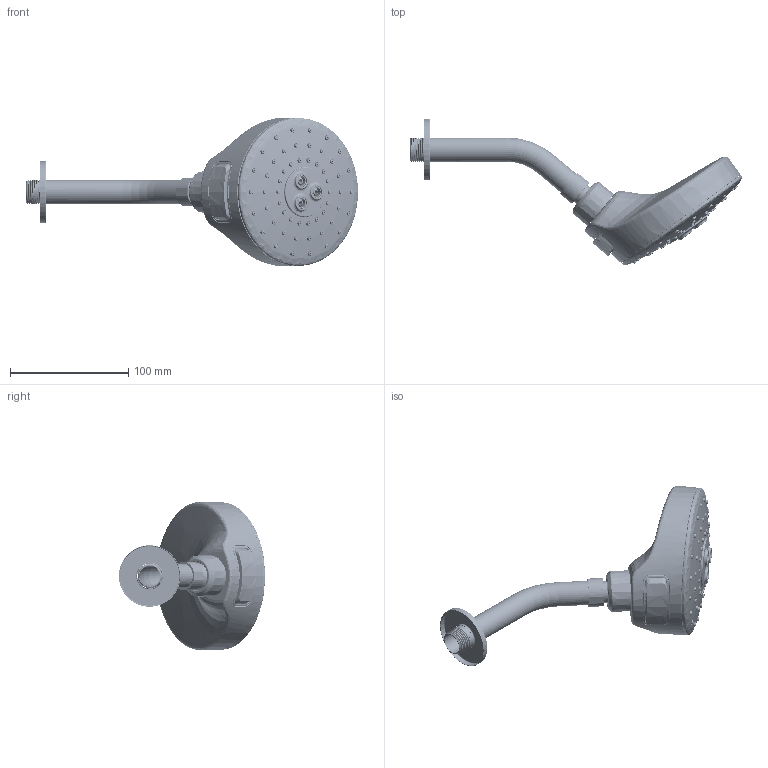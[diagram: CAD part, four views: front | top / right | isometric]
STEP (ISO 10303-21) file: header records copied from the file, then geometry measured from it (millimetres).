
FILE_DESCRIPTION((''),'2;1');
FILE_NAME('BAR0630_ASM','2018-08-01T',('BRUser'),(''),'PRO/ENGINEER BY PARAMETRIC TECHNOLOGY CORPORATION, 2007450','PRO/ENGINEER BY PARAMETRIC TECHNOLOGY CORPORATION, 2007450','');
FILE_SCHEMA(('CONFIG_CONTROL_DESIGN'));
Length unit declared in the file: millimetre
Products named in the file (24): BAR0630-001; BAR0630-002; PSH2330-001; PHS2250-006; PHS2250-005-01; PHS2250-005-02; PHS2250-005_ASM; PSH2330-003; PHS2250-027; PHS2250-008; PHS2250-009; PSH2330-01_ASM; PHS2250-002; PSH2330-002; PRS1802-003; PSH2330-007; PRS2100-013; PRS2100-014; PRS2100-011; ST3-5X16; 7-5X1-5; 8X1-5; PSH2330_ASM; BAR0630_ASM
Assembly tree (31 placements, depth 5):
  BAR0630_ASM
    BAR0630-001
    BAR0630-002
    PSH2330_ASM
      PSH2330-001
      PSH2330-01_ASM
        PHS2250-006
        PHS2250-005_ASM
          PHS2250-005-01
          PHS2250-005-02
        PSH2330-003
        PHS2250-027
        PHS2250-008  x3
        PHS2250-009  x3
      PHS2250-002
      PSH2330-002
      PRS1802-003
      PSH2330-007
      PRS2100-013
      PRS2100-014
      PRS2100-011
      ST3-5X16  x4
      7-5X1-5
      8X1-5  x2
Bounding box: 280.27 x 123.43 x 125.26 mm (x, y, z)
Volume: 203411.8 mm3; surface area: 225068.1 mm2
Topology: 31 solids, 31 shells, 3792 faces, 10149 edges, 6496 vertices
Faces by surface type: plane 975, cone 939, cylinder 755, bspline 521, torus 239, extrusion 190, revolution 123, sphere 50
Entity records: 157631 total; most frequent: CARTESIAN_POINT 83864, ORIENTED_EDGE 16762, DIRECTION 12996, EDGE_CURVE 8381, VERTEX_POINT 5345, AXIS2_PLACEMENT_3D 5139, EDGE_LOOP 3680, B_SPLINE_CURVE_WITH_KNOTS 3494
